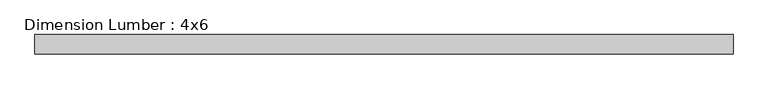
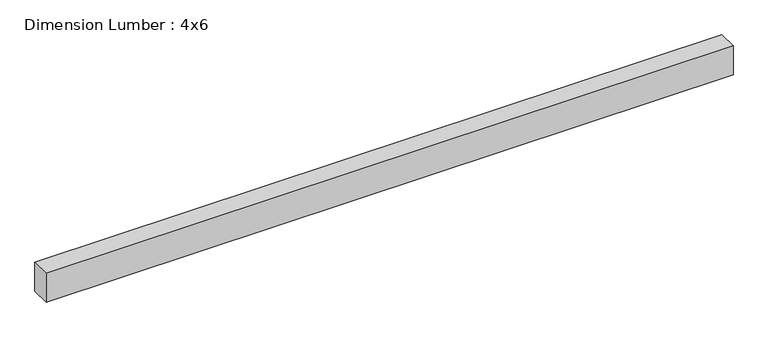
"""IFC4 building model written with IfcOpenShell, lengths in millimetres: beam geometry, Dimension Lumber : 4x6."""

from ifc_helpers import new_model, si_unit, frame, origin, place, context, project, spatial, polyline, outline, extrude, source, transform, mapped, element, save


def dimension_lumber_4x6_b21dc419(model_context):
    return source(origin(), model_context, "Body", "SweptSolid", [
        extrude(outline(polyline([(1552.575, 44.45), (1552.575, -44.45), (-1622.425, -44.45), (-1622.425, 44.45), (1552.575, 44.45)])), frame((0.0, 0.0, -69.85), z_axis=(0.0, 0.0, 1.0), x_axis=(1.0, 0.0, 0.0)), (0.0, 0.0, 1.0), 139.7),
    ])


if __name__ == "__main__":
    model = new_model("IFC4")
    model_context = context("Model", 3, world=origin())
    ifc_project = project(units=[si_unit("LENGTHUNIT", "METRE", prefix="MILLI")], contexts=[model_context])
    site = spatial("IfcSite", under=ifc_project)
    building = spatial("IfcBuilding", under=site)
    placement = place(None, origin())
    dimension_lumber_4x6_shape = dimension_lumber_4x6_b21dc419(model_context)
    element("IfcBeam", 1, ObjectType="Dimension Lumber : 4x6", at=placement, inside=building, context=model_context, shape_type="MappedRepresentation", body=[
        mapped(dimension_lumber_4x6_shape, transform((0.0, 0.0, 0.0), x_axis=(1.0, 0.0, 0.0), y_axis=(0.0, 1.0, 0.0), z_axis=(0.0, 0.0, 1.0))),
    ])
    save(model, "model.ifc")
